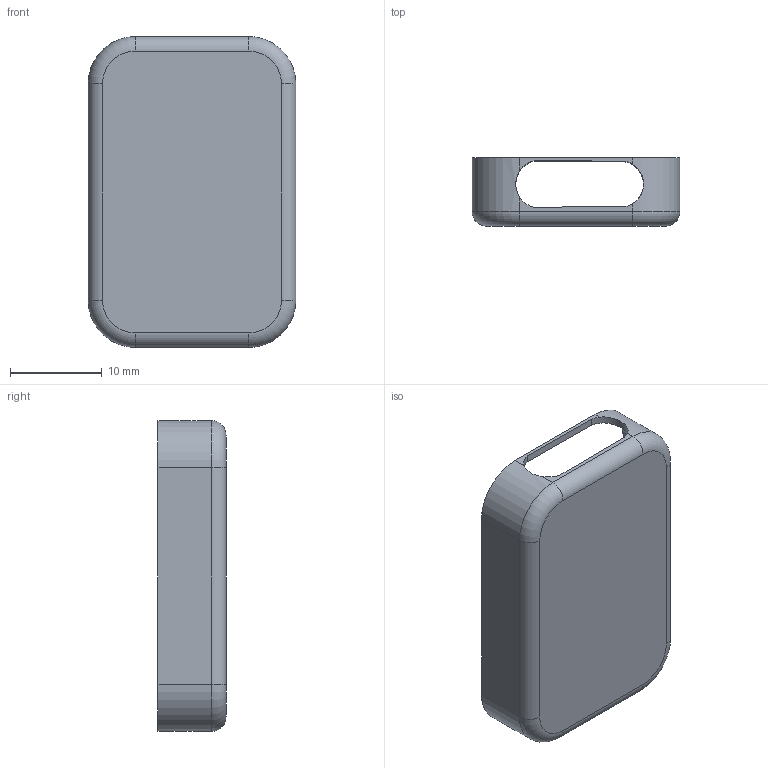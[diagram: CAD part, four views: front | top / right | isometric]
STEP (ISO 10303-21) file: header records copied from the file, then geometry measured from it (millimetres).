
FILE_DESCRIPTION(/* description */ ('STEP AP242 Edition 2','CAx-IF Rec.Pracs.---Representation and Presentation of Product Manufacturing Information (PMI)---4.0---2014-10-13','CAx-IF Rec.Pracs.---3D Tessellated Geometry---0.4---2014-09-14','2;1','CAx-IF Rec.Pracs.---User Defined Attributes---1.5---2016-08-15'),/* implementation_level */ '2;1');
FILE_NAME(/* name */ 'Assembly 1 - Part 12',/* time_stamp */ '2026-10-02T23:42:51Z',/* author */ (''),/* organization */ (''),/* preprocessor_version */ 'ST-DEVELOPER v20',/* originating_system */ 'ONSHAPE BY PTC INC, 1.221',/* authorisation */ ' ');
FILE_SCHEMA (('AP242_MANAGED_MODEL_BASED_3D_ENGINEERING_MIM_LF { 1 0 10303 442 3 1 4 }'));
Length unit declared in the file: metre
Products named in the file (1): Part 12
Bounding box: 22.6 x 7.4 x 33.82 mm (x, y, z)
Volume: 1104.3 mm3; surface area: 2611.2 mm2
Topology: 1 solids, 1 shells, 39 faces, 112 edges, 72 vertices
Faces by surface type: plane 19, cylinder 16, torus 4
Entity records: 1340 total; most frequent: CARTESIAN_POINT 264, DIRECTION 228, ORIENTED_EDGE 224, EDGE_CURVE 112, AXIS2_PLACEMENT_3D 84, VERTEX_POINT 72, LINE 60, VECTOR 60
